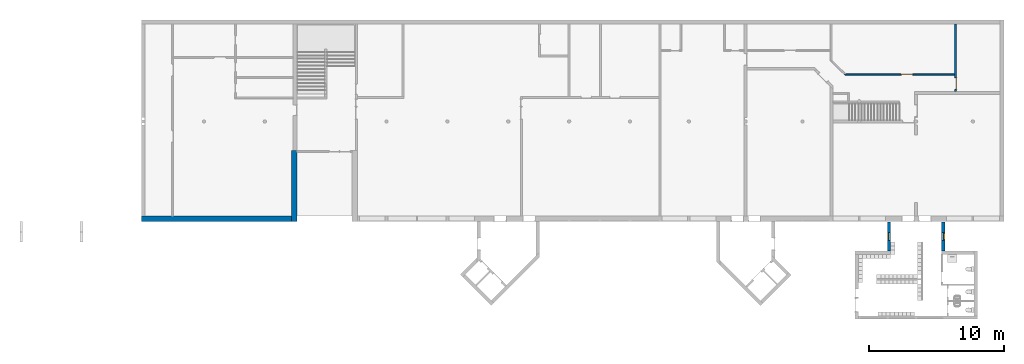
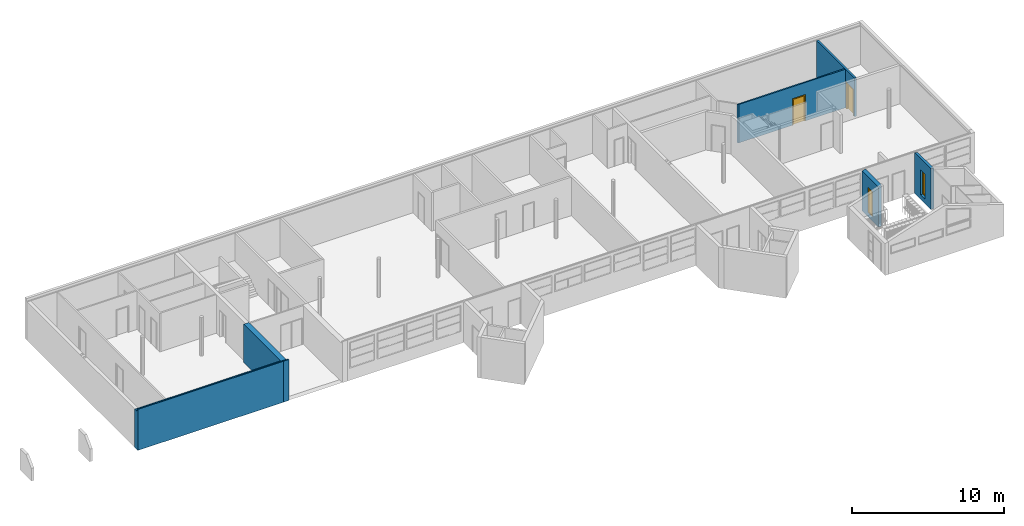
# One storey, part 4 of 25: 6 walls, 2 doors, 2 windows, 4 openings.
"""IFC2X3 building model written with IfcOpenShell, lengths in millimetres."""

from ifc_helpers import new_model, entity, si_unit, converted_unit, derived_unit, money_unit, direction, frame, origin_with_axes, place, context, subcontext, project, spatial, open_shell, faceted_brep, surface_model, source, transform, mapped, material, type_object, element, fill, save


model = new_model("IFC2X3")

# Units and contexts
model_context = context("Model", 3, precision=0.01, world=origin_with_axes(), true_north=direction((0.0, 1.0)))
body_context = subcontext(model_context, "Body", "Model", "MODEL_VIEW")
ifc_project = project(units=[si_unit("LENGTHUNIT", "METRE", prefix="MILLI"), si_unit("AREAUNIT", "SQUARE_METRE"), si_unit("VOLUMEUNIT", "CUBIC_METRE"), converted_unit("PLANEANGLEUNIT", "DEGREE", entity("IfcPlaneAngleMeasure", 0.0174532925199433), si_unit("PLANEANGLEUNIT", "RADIAN"), dimensions=[0, 0, 0, 0, 0, 0, 0]), money_unit("USD"), converted_unit("TIMEUNIT", "Year", entity("IfcTimeMeasure", 31557600.0), si_unit("TIMEUNIT", "SECOND"), dimensions=[0, 0, 1, 0, 0, 0, 0]), si_unit("MASSUNIT", "GRAM", prefix="KILO"), si_unit("THERMODYNAMICTEMPERATUREUNIT", "DEGREE_CELSIUS"), si_unit("LUMINOUSINTENSITYUNIT", "LUMEN"), si_unit("ENERGYUNIT", "JOULE", prefix="MEGA"), derived_unit("THERMALCONDUCTANCEUNIT", [(si_unit("POWERUNIT", "WATT"), 1), (si_unit("LENGTHUNIT", "METRE"), -1), (si_unit("THERMODYNAMICTEMPERATUREUNIT", "KELVIN"), -1)]), derived_unit("SPECIFICHEATCAPACITYUNIT", [(si_unit("ENERGYUNIT", "JOULE"), 1), (si_unit("MASSUNIT", "GRAM", prefix="KILO"), -1), (si_unit("THERMODYNAMICTEMPERATUREUNIT", "KELVIN"), -1)]), derived_unit("MASSDENSITYUNIT", [(si_unit("MASSUNIT", "GRAM", prefix="KILO"), 1), (si_unit("VOLUMEUNIT", "CUBIC_METRE"), -1)])], contexts=[model_context])

# Site, building, storey
site_placement = place(None, origin_with_axes())
site = spatial("IfcSite", under=ifc_project, at=site_placement, Name="Site", CompositionType="ELEMENT")
building_placement = place(site_placement, origin_with_axes())
building = spatial("IfcBuilding", under=site, at=building_placement, Name="Building", CompositionType="ELEMENT")
storey_placement = place(building_placement, origin_with_axes())
storey = spatial("IfcBuildingStorey", under=building, at=storey_placement, Name="U ETG", CompositionType="ELEMENT", Elevation=0.0)

# Wall, opening, door
ifc_material_1 = material(Name="GENERIC - INTERNAL FILLER")
wall_type_1 = type_object("IfcWallType", Name="GENERIC - INTERNAL FILLER 110", PredefinedType="NOTDEFINED")
wall_1_placement = place(storey_placement, frame((69150.0, 17900.0, 0.0), z_axis=(0.0, 0.0, 1.0), x_axis=(-1.0, 0.0, 0.0)))
wall_1 = element("IfcWall", 1, at=wall_1_placement, inside=storey, type_object=wall_type_1, material=ifc_material_1, Name="SW - 001", context=body_context, shape_type="Brep", body=[
    faceted_brep([(4135.020662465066, -109.9999999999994, 2100.0), (4135.020662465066, -109.9999999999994, 0.0), (8359.999999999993, -109.9999999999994, 0.0), (8359.999999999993, -109.9999999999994, 3100.0), (150.0000000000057, -109.9999999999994, 3100.0), (150.0000000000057, -109.9999999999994, 0.0), (3235.020662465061, -109.9999999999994, 0.0), (3235.020662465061, -109.9999999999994, 2100.0), (4135.020662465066, 0.0, 2100.0), (4135.020662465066, 0.0, 0.0), (8249.999999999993, 0.0, 0.0), (8249.999999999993, 0.0, 3100.0), (150.0000000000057, 0.0, 3100.0), (150.0000000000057, 0.0, 0.0), (3235.020662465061, 0.0, 0.0), (3235.020662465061, 0.0, 2100.0)], [[[0, 1, 2, 3, 4, 5, 6, 7]], [[1, 0, 8, 9]], [[1, 9, 10, 2]], [[3, 2, 10, 11]], [[11, 12, 4, 3]], [[4, 12, 13, 5]], [[14, 6, 5, 13]], [[7, 6, 14, 15]], [[0, 7, 15, 8]], [[15, 14, 13, 12, 11, 10, 9, 8]]]),
])
opening_1_placement = place(wall_1_placement, frame((3685.020662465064, 0.0, 0.0), z_axis=(0.0, 0.0, 1.0), x_axis=(1.0, 0.0, 0.0)))
opening_1 = element("IfcOpeningElement", 2, at=opening_1_placement, cuts=wall_1, Name="DOO - 002", context=body_context, shape_type="Brep", body=[
    faceted_brep([(450.0000000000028, -111.0000000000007, 2100.0), (-450.0000000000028, -111.0000000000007, 2100.0), (-450.0000000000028, -111.0000000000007, 0.0), (450.0000000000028, -111.0000000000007, 0.0), (486.9999999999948, -111.0000000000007, 0.0), (486.9999999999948, -111.0000000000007, 2137.0), (-486.9999999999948, -111.0000000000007, 2137.0), (-486.9999999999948, -111.0000000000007, 0.0), (450.0000000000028, -109.9999999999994, 0.0), (-450.0000000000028, -109.9999999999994, 0.0), (-450.0000000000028, 0.0, 0.0), (-450.0000000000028, 1.000000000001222, 0.0), (450.0000000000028, 1.000000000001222, 0.0), (450.0000000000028, 0.0, 0.0), (486.9999999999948, -109.9999999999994, 0.0), (486.9999999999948, -109.9999999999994, 2137.0), (-486.9999999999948, -109.9999999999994, 2137.0), (-486.9999999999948, -109.9999999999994, 0.0), (-450.0000000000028, -109.9999999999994, 2100.0), (-450.0000000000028, 0.0, 2100.0), (-486.9999999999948, 0.0, 0.0), (-486.9999999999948, 1.000000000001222, 0.0), (-486.9999999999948, 1.000000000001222, 2137.0), (486.9999999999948, 1.000000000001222, 2137.0), (486.9999999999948, 1.000000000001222, 0.0), (486.9999999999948, 0.0, 0.0), (450.0000000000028, -109.9999999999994, 2100.0), (450.0000000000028, 0.0, 2100.0), (486.9999999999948, 0.0, 2137.0), (-486.9999999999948, 0.0, 2137.0)], [[[0, 1, 2, 3]], [[2, 1, 0, 3, 4, 5, 6, 7]], [[8, 3, 2, 9, 10, 11, 12, 13]], [[3, 8, 14, 4]], [[14, 15, 5, 4]], [[15, 16, 6, 5]], [[16, 17, 7, 6]], [[9, 2, 7, 17]], [[9, 18, 19, 10]], [[11, 10, 20, 21]], [[12, 11, 21, 22, 23, 24]], [[13, 12, 24, 25]], [[26, 8, 13, 27]], [[26, 18, 9, 17, 16, 15, 14, 8]], [[18, 26, 27, 19]], [[10, 19, 27, 13, 25, 28, 29, 20]], [[20, 29, 22, 21]], [[29, 28, 23, 22]], [[28, 25, 24, 23]]]),
])
door_style_1 = type_object("IfcDoorStyle", Name="Dør", ConstructionType="NOTDEFINED", OperationType="SINGLE_SWING_RIGHT", ParameterTakesPrecedence=False, Sizeable=False)
shared_shape_1 = source(origin_with_axes(), body_context, "Body", "Brep", [
    faceted_brep([(-487.0, -129.0, 0.0), (-487.0, -110.0, 0.0), (-437.0, -110.0, 0.0), (-437.0, -129.0, 0.0), (-487.0, -129.0000000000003, 2137.0), (-487.0, -110.0000000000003, 2137.0), (-437.0, -110.0000000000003, 2087.0), (-437.0, -129.0000000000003, 2087.0)], [[[0, 1, 2, 3]], [[4, 5, 1, 0]], [[1, 5, 6, 2]], [[3, 2, 6, 7]], [[0, 3, 7, 4]], [[7, 6, 5, 4]]]),
    faceted_brep([(487.0, -129.0000000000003, 2137.0), (487.0, -110.0000000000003, 2137.0), (437.0, -110.0000000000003, 2087.0), (437.0, -129.0000000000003, 2087.0), (487.0, -129.0, 0.0), (487.0, -110.0, 0.0), (437.0, -110.0, 0.0), (437.0, -129.0, 0.0)], [[[0, 1, 2, 3]], [[4, 5, 1, 0]], [[1, 5, 6, 2]], [[3, 2, 6, 7]], [[0, 3, 7, 4]], [[7, 6, 5, 4]]]),
    faceted_brep([(-487.0, -129.0000000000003, 2137.0), (-487.0, -110.0000000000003, 2137.0), (-437.0, -110.0000000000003, 2087.0), (-437.0, -129.0000000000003, 2087.0), (487.0, -129.0000000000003, 2137.0), (487.0, -110.0000000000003, 2137.0), (437.0, -110.0000000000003, 2087.0), (437.0, -129.0000000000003, 2087.0)], [[[0, 1, 2, 3]], [[4, 5, 1, 0]], [[1, 5, 6, 2]], [[3, 2, 6, 7]], [[0, 3, 7, 4]], [[7, 6, 5, 4]]]),
    faceted_brep([(-487.0, 19.0, 0.0), (-437.0, 19.0, 0.0), (-437.0, 0.0, 0.0), (-487.0, 0.0, 0.0), (-487.0, 18.99999999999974, 2137.0), (-437.0, 18.99999999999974, 2087.0), (-437.0, 0.0, 2087.0), (-487.0, 0.0, 2137.0)], [[[0, 1, 2, 3]], [[0, 4, 5, 1]], [[1, 5, 6, 2]], [[3, 2, 6, 7]], [[4, 0, 3, 7]], [[5, 4, 7, 6]]]),
    faceted_brep([(487.0, 18.99999999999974, 2137.0), (437.0, 18.99999999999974, 2087.0), (437.0, 0.0, 2087.0), (487.0, 0.0, 2137.0), (487.0, 19.0, 0.0), (437.0, 19.0, 0.0), (437.0, 0.0, 0.0), (487.0, 0.0, 0.0)], [[[0, 1, 2, 3]], [[0, 4, 5, 1]], [[1, 5, 6, 2]], [[3, 2, 6, 7]], [[4, 0, 3, 7]], [[5, 4, 7, 6]]]),
    faceted_brep([(-487.0, 18.99999999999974, 2137.0), (-437.0, 18.99999999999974, 2087.0), (-437.0, 0.0, 2087.0), (-487.0, 0.0, 2137.0), (487.0, 18.99999999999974, 2137.0), (437.0, 18.99999999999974, 2087.0), (437.0, 0.0, 2087.0), (487.0, 0.0, 2137.0)], [[[0, 1, 2, 3]], [[0, 4, 5, 1]], [[1, 5, 6, 2]], [[3, 2, 6, 7]], [[4, 0, 3, 7]], [[5, 4, 7, 6]]]),
    faceted_brep([(-450.0, 0.0, 0.0), (-410.0000000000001, 0.0, 0.0), (-410.0000000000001, -115.0, 0.0), (-450.0, -115.0, 0.0), (-450.0, 0.0, 2060.0), (-410.0000000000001, 0.0, 2060.0), (-410.0000000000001, -115.0, 2060.0), (-450.0, -115.0, 2060.0)], [[[0, 1, 2, 3]], [[0, 4, 5, 1]], [[1, 5, 6, 2]], [[3, 2, 6, 7]], [[4, 0, 3, 7]], [[5, 4, 7, 6]]]),
    faceted_brep([(450.0, 0.0, 0.0), (450.0, 0.0, 2060.0), (450.0, -115.0, 2060.0), (450.0, -115.0, 0.0), (410.0000000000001, 0.0, 0.0), (410.0000000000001, 0.0, 2060.0), (410.0000000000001, -115.0, 2060.0), (410.0000000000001, -115.0, 0.0)], [[[0, 1, 2, 3]], [[0, 4, 5, 1]], [[1, 5, 6, 2]], [[3, 2, 6, 7]], [[4, 0, 3, 7]], [[5, 4, 7, 6]]]),
    faceted_brep([(-450.0, 0.0, 2100.0), (-450.0, 0.0, 2060.0), (-450.0, -115.0, 2060.0), (-450.0, -115.0, 2100.0), (450.0, 0.0, 2100.0), (450.0, 0.0, 2060.0), (410.0000000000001, 0.0, 2060.0), (-410.0000000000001, 0.0, 2060.0), (-410.0000000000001, -115.0, 2060.0), (410.0000000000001, -115.0, 2060.0), (450.0, -115.0, 2060.0), (450.0, -115.0, 2100.0)], [[[0, 1, 2, 3]], [[0, 4, 5, 6, 7, 1]], [[1, 7, 8, 2]], [[3, 2, 8, 9, 10, 11]], [[4, 0, 3, 11]], [[5, 4, 11, 10]], [[6, 5, 10, 9]], [[7, 6, 9, 8]]]),
    faceted_brep([(409.9999999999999, 0.0, 0.0), (409.9999999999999, -40.0, 0.0), (-410.0000000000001, -40.0, 0.0), (-410.0000000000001, 0.0, 0.0), (409.9999999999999, 0.0, 2060.0), (409.9999999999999, -40.00000000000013, 2060.0), (-410.0000000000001, -40.00000000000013, 2060.0), (-410.0000000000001, 0.0, 2060.0)], [[[0, 1, 2, 3]], [[4, 5, 1, 0]], [[1, 5, 6, 2]], [[3, 2, 6, 7]], [[0, 3, 7, 4]], [[7, 6, 5, 4]]]),
])
door_1_placement = place(opening_1_placement, frame((450.0000000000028, 0.0, 0.0), z_axis=(0.0, 0.0, 1.0), x_axis=(-1.0, 0.0, 0.0)))
door_1 = element("IfcDoor", 3, at=door_1_placement, inside=storey, type_object=door_style_1, Name="DOO - 002", ObjectType="DOOR", OverallHeight=2100.0, OverallWidth=900.0, context=body_context, shape_type="MappedRepresentation", body=[
    mapped(shared_shape_1, transform((450.0000000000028, 109.9999999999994, 0.0))),
])
fill(opening_1, door_1)

# Walls
ifc_material_2 = material(Name="GENERIC - STRUCTURAL")
wall_type_2 = type_object("IfcWallType", Name="GENERIC - STRUCTURAL 400", PredefinedType="NOTDEFINED")
wall_2_placement = place(storey_placement, frame((19970.0, 7499.570929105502, 0.0), z_axis=(0.0, 0.0, 1.0), x_axis=(0.0, 1.0, 0.0)))
element("IfcWall", 4, at=wall_2_placement, inside=storey, type_object=wall_type_2, material=ifc_material_2, Name="SW - 001", context=body_context, shape_type="Brep", body=[
    faceted_brep([(4850.000000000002, 0.0, 0.0), (4850.000000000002, 0.0, 3100.0), (4850.000000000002, -399.9999999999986, 3100.0), (4850.000000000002, -399.9999999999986, 0.0), (-299.6959527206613, 0.0, 3300.0), (-299.6959527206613, 0.0, 3100.0), (-400.0000000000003, 0.0, 0.0), (-400.0000000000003, 0.0, 3300.0), (-299.6959527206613, -399.9999999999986, 3100.0), (-299.6959527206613, -399.9999999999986, 3300.0), (-400.0000000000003, -399.9999999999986, 3300.0), (-400.0000000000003, -399.9999999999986, 0.0)], [[[0, 1, 2, 3]], [[4, 5, 1, 0, 6, 7]], [[5, 8, 2, 1]], [[2, 8, 9, 10, 11, 3]], [[6, 0, 3, 11]], [[5, 4, 9, 8]], [[10, 7, 6, 11]], [[10, 9, 4, 7]]]),
])
wall_3_placement = place(storey_placement, frame((9000.000000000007, 7499.570929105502, 0.0), z_axis=(0.0, 0.0, 1.0), x_axis=(1.0, 0.0, 0.0)))
element("IfcWall", 5, at=wall_3_placement, inside=storey, type_object=wall_type_2, material=ifc_material_2, Name="SW - 001", context=body_context, shape_type="Brep", body=[
    faceted_brep([(-130.0000000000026, 0.0, 0.0), (-130.0000000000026, 0.0, 3100.0), (10969.99999999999, 0.0, 3100.0), (10969.99999999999, 0.0, 0.0), (-130.0000000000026, -299.6959527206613, 3300.0), (-130.0000000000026, -299.6959527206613, 3100.0), (-130.0000000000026, -400.0000000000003, 0.0), (-130.0000000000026, -399.9999999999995, 3300.0), (10969.99999999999, -299.6959527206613, 3100.0), (10969.99999999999, -299.6959527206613, 3300.0), (10969.99999999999, -399.9999999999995, 3300.0), (10969.99999999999, -399.9999999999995, 0.0)], [[[0, 1, 2, 3]], [[4, 5, 1, 0, 6, 7]], [[5, 8, 2, 1]], [[2, 8, 9, 10, 11, 3]], [[0, 3, 11, 6]], [[5, 4, 9, 8]], [[6, 11, 10, 7]], [[10, 9, 4, 7]]]),
])

# Wall, opening, door
wall_type_3 = type_object("IfcWallType", Name="GENERIC - INTERNAL FILLER 150", PredefinedType="NOTDEFINED")
wall_4_placement = place(storey_placement, frame((69150.0, 16700.0, 0.0), z_axis=(0.0, 0.0, 1.0), x_axis=(0.0, 1.0, 0.0)))
wall_4 = element("IfcWall", 6, at=wall_4_placement, inside=storey, type_object=wall_type_3, material=ifc_material_1, Name="SW - 001", context=body_context, shape_type="Brep", body=[
    faceted_brep([(152.5455929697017, 0.0, 0.0), (152.5455929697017, 0.0, 2100.0), (1052.5455929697, 0.0, 2100.0), (1052.5455929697, 0.0, 0.0), (5000.0, 0.0, 0.0), (5000.0, 0.0, 3100.0), (0.0, 0.0, 3100.0), (0.0, 0.0, 0.0), (152.5455929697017, 150.0000000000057, 0.0), (152.5455929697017, 150.0000000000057, 2100.0), (1052.5455929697, 150.0000000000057, 2100.0), (1052.5455929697, 150.0000000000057, 0.0), (5000.0, 150.0000000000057, 0.0), (5000.0, 150.0000000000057, 3100.0), (0.0, 150.0000000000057, 3100.0), (0.0, 150.0000000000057, 0.0)], [[[0, 1, 2, 3, 4, 5, 6, 7]], [[1, 0, 8, 9]], [[2, 1, 9, 10]], [[3, 2, 10, 11]], [[3, 11, 12, 4]], [[5, 4, 12, 13]], [[13, 14, 6, 5]], [[6, 14, 15, 7]], [[8, 0, 7, 15]], [[9, 8, 15, 14, 13, 12, 11, 10]]]),
])
opening_2_placement = place(wall_4_placement, frame((602.545592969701, 0.0, 0.0), z_axis=(0.0, 0.0, 1.0), x_axis=(1.0, 0.0, 0.0)))
opening_2 = element("IfcOpeningElement", 7, at=opening_2_placement, cuts=wall_4, Name="DOO - 002", context=body_context, shape_type="Brep", body=[
    faceted_brep([(449.9999999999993, -1.000000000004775, 0.0), (449.9999999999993, -1.000000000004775, 2100.0), (-449.9999999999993, -1.000000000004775, 2100.0), (-449.9999999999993, -1.000000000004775, 0.0), (486.9999999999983, -1.000000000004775, 0.0), (486.9999999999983, -1.000000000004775, 2137.0), (-486.9999999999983, -1.000000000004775, 2137.0), (-486.9999999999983, -1.000000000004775, 0.0), (449.9999999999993, 0.0, 0.0), (-449.9999999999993, 0.0, 0.0), (-449.9999999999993, 150.0000000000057, 0.0), (-449.9999999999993, 151.0000000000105, 0.0), (449.9999999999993, 151.0000000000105, 0.0), (449.9999999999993, 150.0000000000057, 0.0), (486.9999999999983, 0.0, 0.0), (486.9999999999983, 0.0, 2137.0), (-486.9999999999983, 0.0, 2137.0), (-486.9999999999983, 0.0, 0.0), (-449.9999999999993, 0.0, 2100.0), (-449.9999999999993, 150.0000000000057, 2100.0), (-486.9999999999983, 150.0000000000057, 0.0), (-486.9999999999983, 151.0000000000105, 0.0), (-486.9999999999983, 151.0000000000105, 2137.0), (486.9999999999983, 151.0000000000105, 2137.0), (486.9999999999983, 151.0000000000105, 0.0), (486.9999999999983, 150.0000000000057, 0.0), (449.9999999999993, 0.0, 2100.0), (449.9999999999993, 150.0000000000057, 2100.0), (486.9999999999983, 150.0000000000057, 2137.0), (-486.9999999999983, 150.0000000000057, 2137.0)], [[[0, 1, 2, 3]], [[2, 1, 0, 4, 5, 6, 7, 3]], [[8, 0, 3, 9, 10, 11, 12, 13]], [[0, 8, 14, 4]], [[14, 15, 5, 4]], [[15, 16, 6, 5]], [[16, 17, 7, 6]], [[9, 3, 7, 17]], [[9, 18, 19, 10]], [[11, 10, 20, 21]], [[12, 11, 21, 22, 23, 24]], [[13, 12, 24, 25]], [[26, 8, 13, 27]], [[8, 26, 18, 9, 17, 16, 15, 14]], [[18, 26, 27, 19]], [[19, 27, 13, 25, 28, 29, 20, 10]], [[20, 29, 22, 21]], [[29, 28, 23, 22]], [[28, 25, 24, 23]]]),
])
door_style_2 = type_object("IfcDoorStyle", Name="Dør", ConstructionType="NOTDEFINED", OperationType="SINGLE_SWING_RIGHT", ParameterTakesPrecedence=False, Sizeable=False)
shared_shape_2 = source(origin_with_axes(), body_context, "Body", "Brep", [
    faceted_brep([(-450.0, -115.0, 0.0), (-425.0, -115.0, 0.0), (-425.0, -150.0, 0.0), (-450.0, -150.0, 0.0), (-450.0, -115.0000000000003, 2100.0), (-425.0, -115.0000000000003, 2075.0), (-425.0, -150.0000000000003, 2075.0), (-450.0, -150.0000000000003, 2100.0)], [[[0, 1, 2, 3]], [[0, 4, 5, 1]], [[1, 5, 6, 2]], [[3, 2, 6, 7]], [[4, 0, 3, 7]], [[5, 4, 7, 6]]]),
    faceted_brep([(450.0, -115.0000000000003, 2100.0), (425.0, -115.0000000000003, 2075.0), (425.0, -150.0000000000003, 2075.0), (450.0, -150.0000000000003, 2100.0), (450.0, -115.0, 0.0), (425.0, -115.0, 0.0), (425.0, -150.0, 0.0), (450.0, -150.0, 0.0)], [[[0, 1, 2, 3]], [[0, 4, 5, 1]], [[1, 5, 6, 2]], [[3, 2, 6, 7]], [[4, 0, 3, 7]], [[5, 4, 7, 6]]]),
    faceted_brep([(-425.0, -115.0000000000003, 2075.0), (425.0, -115.0000000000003, 2075.0), (425.0, -150.0000000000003, 2075.0), (-425.0, -150.0000000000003, 2075.0), (-450.0, -115.0000000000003, 2100.0), (450.0, -115.0000000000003, 2100.0), (450.0, -150.0000000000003, 2100.0), (-450.0, -150.0000000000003, 2100.0)], [[[0, 1, 2, 3]], [[0, 4, 5, 1]], [[1, 5, 6, 2]], [[3, 2, 6, 7]], [[4, 0, 3, 7]], [[5, 4, 7, 6]]]),
    faceted_brep([(-487.0, -169.0, 0.0), (-487.0, -150.0, 0.0), (-437.0, -150.0, 0.0), (-437.0, -169.0, 0.0), (-487.0, -169.0000000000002, 2137.0), (-487.0, -150.0000000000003, 2137.0), (-437.0, -150.0000000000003, 2087.0), (-437.0, -169.0000000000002, 2087.0)], [[[0, 1, 2, 3]], [[4, 5, 1, 0]], [[1, 5, 6, 2]], [[3, 2, 6, 7]], [[0, 3, 7, 4]], [[7, 6, 5, 4]]]),
    faceted_brep([(487.0, -169.0000000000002, 2137.0), (487.0, -150.0000000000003, 2137.0), (437.0, -150.0000000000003, 2087.0), (437.0, -169.0000000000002, 2087.0), (487.0, -169.0, 0.0), (487.0, -150.0, 0.0), (437.0, -150.0, 0.0), (437.0, -169.0, 0.0)], [[[0, 1, 2, 3]], [[4, 5, 1, 0]], [[1, 5, 6, 2]], [[3, 2, 6, 7]], [[0, 3, 7, 4]], [[7, 6, 5, 4]]]),
    faceted_brep([(-487.0, -169.0000000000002, 2137.0), (-487.0, -150.0000000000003, 2137.0), (-437.0, -150.0000000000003, 2087.0), (-437.0, -169.0000000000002, 2087.0), (487.0, -169.0000000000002, 2137.0), (487.0, -150.0000000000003, 2137.0), (437.0, -150.0000000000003, 2087.0), (437.0, -169.0000000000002, 2087.0)], [[[0, 1, 2, 3]], [[4, 5, 1, 0]], [[1, 5, 6, 2]], [[3, 2, 6, 7]], [[0, 3, 7, 4]], [[7, 6, 5, 4]]]),
    faceted_brep([(-487.0, 19.0, 0.0), (-437.0, 19.0, 0.0), (-437.0, 0.0, 0.0), (-487.0, 0.0, 0.0), (-487.0, 18.99999999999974, 2137.0), (-437.0, 18.99999999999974, 2087.0), (-437.0, 0.0, 2087.0), (-487.0, 0.0, 2137.0)], [[[0, 1, 2, 3]], [[0, 4, 5, 1]], [[1, 5, 6, 2]], [[3, 2, 6, 7]], [[4, 0, 3, 7]], [[5, 4, 7, 6]]]),
    faceted_brep([(487.0, 18.99999999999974, 2137.0), (437.0, 18.99999999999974, 2087.0), (437.0, 0.0, 2087.0), (487.0, 0.0, 2137.0), (487.0, 19.0, 0.0), (437.0, 19.0, 0.0), (437.0, 0.0, 0.0), (487.0, 0.0, 0.0)], [[[0, 1, 2, 3]], [[0, 4, 5, 1]], [[1, 5, 6, 2]], [[3, 2, 6, 7]], [[4, 0, 3, 7]], [[5, 4, 7, 6]]]),
    faceted_brep([(-487.0, 18.99999999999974, 2137.0), (-437.0, 18.99999999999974, 2087.0), (-437.0, 0.0, 2087.0), (-487.0, 0.0, 2137.0), (487.0, 18.99999999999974, 2137.0), (437.0, 18.99999999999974, 2087.0), (437.0, 0.0, 2087.0), (487.0, 0.0, 2137.0)], [[[0, 1, 2, 3]], [[0, 4, 5, 1]], [[1, 5, 6, 2]], [[3, 2, 6, 7]], [[4, 0, 3, 7]], [[5, 4, 7, 6]]]),
    faceted_brep([(-450.0, 0.0, 0.0), (-410.0000000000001, 0.0, 0.0), (-410.0000000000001, -115.0, 0.0), (-450.0, -115.0, 0.0), (-450.0, 0.0, 2060.0), (-410.0000000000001, 0.0, 2060.0), (-410.0000000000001, -115.0, 2060.0), (-450.0, -115.0, 2060.0)], [[[0, 1, 2, 3]], [[0, 4, 5, 1]], [[1, 5, 6, 2]], [[3, 2, 6, 7]], [[4, 0, 3, 7]], [[5, 4, 7, 6]]]),
    faceted_brep([(450.0, 0.0, 0.0), (450.0, 0.0, 2060.0), (450.0, -115.0, 2060.0), (450.0, -115.0, 0.0), (410.0000000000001, 0.0, 0.0), (410.0000000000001, 0.0, 2060.0), (410.0000000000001, -115.0, 2060.0), (410.0000000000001, -115.0, 0.0)], [[[0, 1, 2, 3]], [[0, 4, 5, 1]], [[1, 5, 6, 2]], [[3, 2, 6, 7]], [[4, 0, 3, 7]], [[5, 4, 7, 6]]]),
    faceted_brep([(-450.0, 0.0, 2100.0), (-450.0, 0.0, 2060.0), (-450.0, -115.0, 2060.0), (-450.0, -115.0, 2100.0), (450.0, 0.0, 2100.0), (450.0, 0.0, 2060.0), (410.0000000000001, 0.0, 2060.0), (-410.0000000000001, 0.0, 2060.0), (-410.0000000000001, -115.0, 2060.0), (410.0000000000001, -115.0, 2060.0), (450.0, -115.0, 2060.0), (450.0, -115.0, 2100.0)], [[[0, 1, 2, 3]], [[0, 4, 5, 6, 7, 1]], [[1, 7, 8, 2]], [[3, 2, 8, 9, 10, 11]], [[4, 0, 3, 11]], [[5, 4, 11, 10]], [[6, 5, 10, 9]], [[7, 6, 9, 8]]]),
    faceted_brep([(409.9999999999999, 0.0, 0.0), (409.9999999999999, -40.0, 0.0), (-410.0000000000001, -40.0, 0.0), (-410.0000000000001, 0.0, 0.0), (409.9999999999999, 0.0, 2060.0), (409.9999999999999, -40.00000000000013, 2060.0), (-410.0000000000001, -40.00000000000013, 2060.0), (-410.0000000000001, 0.0, 2060.0)], [[[0, 1, 2, 3]], [[4, 5, 1, 0]], [[1, 5, 6, 2]], [[3, 2, 6, 7]], [[0, 3, 7, 4]], [[7, 6, 5, 4]]]),
])
door_2_placement = place(opening_2_placement, frame((449.9999999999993, 0.0, 0.0), z_axis=(0.0, 0.0, 1.0), x_axis=(-1.0, 0.0, 0.0)))
door_2 = element("IfcDoor", 8, at=door_2_placement, inside=storey, type_object=door_style_2, Name="DOO - 002", ObjectType="DOOR", OverallHeight=2100.0, OverallWidth=900.0, context=body_context, shape_type="MappedRepresentation", body=[
    mapped(shared_shape_2, transform((449.9999999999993, 0.0, 0.0))),
])
fill(opening_2, door_2)

# Wall, opening, window
wall_type_4 = type_object("IfcWallType", Name="GENERIC - INTERNAL FILLER 250", PredefinedType="NOTDEFINED")
wall_5_placement = place(storey_placement, frame((68149.71591829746, 4804.879668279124, 0.0), z_axis=(0.0, 0.0, 1.0), x_axis=(4.242895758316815e-05, 0.9999999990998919, 0.0)))
wall_5 = element("IfcWall", 9, at=wall_5_placement, inside=storey, type_object=wall_type_4, material=ifc_material_1, Name="SW - 001", context=body_context, shape_type="Brep", body=[
    faceted_brep([(124.9999935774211, 125.0000000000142, 3295.118921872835), (2274.97881153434, 125.0, 3295.089285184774), (2274.978811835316, 125.0, 0.0), (124.9999935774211, 125.0, 0.0), (894.7215769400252, 125.0, 375.0187491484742), (1494.721576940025, 125.0000000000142, 375.0187491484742), (1494.721576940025, 125.0000000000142, 2375.018749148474), (894.7215769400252, 125.0, 2375.018749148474), (125.000006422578, -125.0, 3213.897023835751), (2274.989418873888, -125.0000000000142, 3213.867387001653), (2274.989419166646, -125.0, 0.0), (125.000006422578, -125.0, 0.0), (894.7215769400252, -125.0, 375.0187491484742), (1494.721576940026, -125.0, 375.0187491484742), (1494.721576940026, -125.0, 2375.018749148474), (894.7215769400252, -125.0, 2375.018749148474)], [[[0, 1, 2, 3], [4, 5, 6, 7]], [[8, 9, 1, 0]], [[1, 9, 10, 2]], [[11, 3, 2, 10]], [[8, 0, 3, 11]], [[12, 13, 5, 4]], [[13, 14, 6, 5]], [[14, 15, 7, 6]], [[15, 12, 4, 7]], [[9, 8, 11, 10], [12, 15, 14, 13]]]),
])
opening_3_placement = place(wall_5_placement, frame((1194.721576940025, 0.0, 375.0187491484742), z_axis=(0.0, 0.0, 1.0), x_axis=(1.0, 0.0, 0.0)))
opening_3 = element("IfcOpeningElement", 10, at=opening_3_placement, cuts=wall_5, Name="WD - 001", context=body_context, shape_type="Brep", body=[
    faceted_brep([(299.9999999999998, 126.1143329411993, 2000.0), (299.9999999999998, 126.1143329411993, 0.0), (-299.9999999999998, 126.1143329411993, 0.0), (-299.9999999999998, 126.1143329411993, 2000.0), (299.9999999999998, -126.1143329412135, 2000.0), (299.9999999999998, -126.1143329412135, 0.0), (-299.9999999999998, -126.1143329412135, 0.0), (-299.9999999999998, -126.1143329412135, 2000.0)], [[[0, 1, 2, 3]], [[4, 5, 1, 0]], [[5, 6, 2, 1]], [[6, 7, 3, 2]], [[7, 4, 0, 3]], [[6, 5, 4, 7]]]),
])
window_style = type_object("IfcWindowStyle", Name="Vindu", ConstructionType="NOTDEFINED", OperationType="SINGLE_PANEL", ParameterTakesPrecedence=False, Sizeable=False)
shared_shape_3 = source(origin_with_axes(), body_context, "Body", "SurfaceModel", [
    faceted_brep([(-234.0, -92.00000000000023, 1934.0), (-234.0, 0.0, 1934.0), (-300.0, 0.0, 1934.0), (-300.0, -92.00000000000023, 1934.0), (-234.0, -92.0, 66.0), (-234.0, 0.0, 66.0), (-300.0, 0.0, 66.0), (-300.0, -92.0, 66.0)], [[[0, 1, 2, 3]], [[4, 5, 1, 0]], [[1, 5, 6, 2]], [[3, 2, 6, 7]], [[0, 3, 7, 4]], [[7, 6, 5, 4]]]),
    faceted_brep([(234.0, -92.0, 66.0), (234.0, 0.0, 66.0), (300.0, 0.0, 66.0), (300.0, -92.0, 66.0), (234.0, -92.00000000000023, 1934.0), (234.0, 0.0, 1934.0), (300.0, 0.0, 1934.0), (300.0, -92.00000000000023, 1934.0)], [[[0, 1, 2, 3]], [[4, 5, 1, 0]], [[1, 5, 6, 2]], [[3, 2, 6, 7]], [[0, 3, 7, 4]], [[7, 6, 5, 4]]]),
    faceted_brep([(-234.0, -92.0, 66.0), (-234.0, 0.0, 66.0), (-300.0, 0.0, 66.0), (-300.0, -92.0, 66.0), (234.0, -92.0, 66.0), (234.0, 0.0, 66.0), (300.0, 0.0, 66.0), (300.0, 0.0, 0.0), (-300.0, 0.0, 0.0), (-300.0, -92.0, 0.0), (300.0, -92.0, 0.0), (300.0, -92.0, 66.0)], [[[0, 1, 2, 3]], [[4, 5, 1, 0]], [[1, 5, 6, 7, 8, 2]], [[3, 2, 8, 9]], [[0, 3, 9, 10, 11, 4]], [[11, 6, 5, 4]], [[10, 7, 6, 11]], [[9, 8, 7, 10]]]),
    faceted_brep([(234.0, -92.00000000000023, 1934.0), (234.0, 0.0, 1934.0), (300.0, 0.0, 1934.0), (300.0, -92.00000000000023, 1934.0), (-234.0, -92.00000000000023, 1934.0), (-234.0, 0.0, 1934.0), (-300.0, 0.0, 1934.0), (-300.0, 0.0, 2000.0), (300.0, 0.0, 2000.0), (300.0, -92.00000000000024, 2000.0), (-300.0, -92.00000000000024, 2000.0), (-300.0, -92.00000000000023, 1934.0)], [[[0, 1, 2, 3]], [[4, 5, 1, 0]], [[1, 5, 6, 7, 8, 2]], [[3, 2, 8, 9]], [[0, 3, 9, 10, 11, 4]], [[11, 6, 5, 4]], [[10, 7, 6, 11]], [[9, 8, 7, 10]]]),
    surface_model("IfcShellBasedSurfaceModel", [(-234.0, -56.0, 66.0), (234.0, -56.0, 66.0), (234.0, -56.00000000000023, 1934.0), (-234.0, -56.00000000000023, 1934.0)], [open_shell([[[0, 1, 2, 3]]])]),
    surface_model("IfcShellBasedSurfaceModel", [(-234.0, -36.00000000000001, 66.0), (-234.0, -36.00000000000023, 1934.0), (234.0, -36.00000000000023, 1934.0), (234.0, -36.00000000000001, 66.0)], [open_shell([[[0, 1, 2, 3]]])]),
])
window_1_placement = place(opening_3_placement, frame((300.0000000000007, 0.0, 0.0), z_axis=(0.0, 0.0, 1.0), x_axis=(-1.0, 0.0, 0.0)))
window_1 = element("IfcWindow", 11, at=window_1_placement, inside=storey, type_object=window_style, Name="WD - 001", ObjectType="WINDOW", OverallHeight=2000.0, OverallWidth=600.0, context=body_context, shape_type="MappedRepresentation", body=[
    mapped(shared_shape_3, transform((299.9999999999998, 125.0, 0.0))),
])
fill(opening_3, window_1)

wall_6_placement = place(storey_placement, frame((64150.29100296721, 7499.570929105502, 0.0), z_axis=(0.0, 0.0, 1.0), x_axis=(-4.237757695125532e-05, -0.9999999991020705, 0.0)))
wall_6 = element("IfcWall", 12, at=wall_6_placement, inside=storey, type_object=wall_type_4, material=ifc_material_1, Name="SW - 001", context=body_context, shape_type="Brep", body=[
    faceted_brep([(2569.660093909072, -125.0, 3213.854368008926), (419.7124453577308, -125.0000000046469, 3213.883974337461), (419.7124449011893, -125.0000000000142, 0.0), (2569.660093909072, -125.0000000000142, 0.0), (1799.799982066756, -125.0, 375.0187491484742), (1199.799982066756, -125.0000000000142, 375.0187491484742), (1199.799982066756, -125.0000000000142, 2375.018749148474), (1799.799982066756, -125.0, 2375.018749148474), (2569.660093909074, 124.9999999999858, 3295.092577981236), (419.7018510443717, 125.0000000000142, 3295.122184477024), (419.7018505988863, 125.0000000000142, 0.0), (2569.660093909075, 124.9999999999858, 0.0), (1799.799982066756, 125.0, 375.0187491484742), (1199.799982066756, 125.0000000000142, 375.0187491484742), (1199.799982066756, 125.0000000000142, 2375.018749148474), (1799.799982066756, 125.0, 2375.018749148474)], [[[0, 1, 2, 3], [4, 5, 6, 7]], [[8, 9, 1, 0]], [[1, 9, 10, 2]], [[11, 3, 2, 10]], [[8, 0, 3, 11]], [[12, 13, 5, 4]], [[13, 14, 6, 5]], [[14, 15, 7, 6]], [[15, 12, 4, 7]], [[9, 8, 11, 10], [12, 15, 14, 13]]]),
])
opening_4_placement = place(wall_6_placement, frame((1499.799982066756, 0.0, 375.0187491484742), z_axis=(0.0, 0.0, 1.0), x_axis=(1.0, 0.0, 0.0)))
opening_4 = element("IfcOpeningElement", 13, at=opening_4_placement, cuts=wall_6, Name="WD - 001", context=body_context, shape_type="Brep", body=[
    faceted_brep([(299.9999999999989, 126.1141931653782, 2000.0), (299.9999999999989, 126.1141931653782, 0.0), (-300.0000000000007, 126.1141931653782, 0.0), (-300.0000000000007, 126.1141931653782, 2000.0), (299.9999999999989, -126.1141931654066, 2000.0), (299.9999999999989, -126.1141931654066, 0.0), (-300.0000000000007, -126.1141931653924, 0.0), (-300.0000000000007, -126.1141931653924, 2000.0)], [[[0, 1, 2, 3]], [[4, 5, 1, 0]], [[5, 6, 2, 1]], [[6, 7, 3, 2]], [[7, 4, 0, 3]], [[6, 5, 4, 7]]]),
])
window_2_placement = place(opening_4_placement, frame((299.9999999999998, 0.0, 0.0), z_axis=(0.0, 0.0, 1.0), x_axis=(-1.0, 0.0, 0.0)))
window_2 = element("IfcWindow", 14, at=window_2_placement, inside=storey, type_object=window_style, Name="WD - 001", ObjectType="WINDOW", OverallHeight=2000.0, OverallWidth=600.0, context=body_context, shape_type="MappedRepresentation", body=[
    mapped(shared_shape_3, transform((300.0000000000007, 125.0000000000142, 0.0))),
])
fill(opening_4, window_2)

save(model, "model.ifc")
